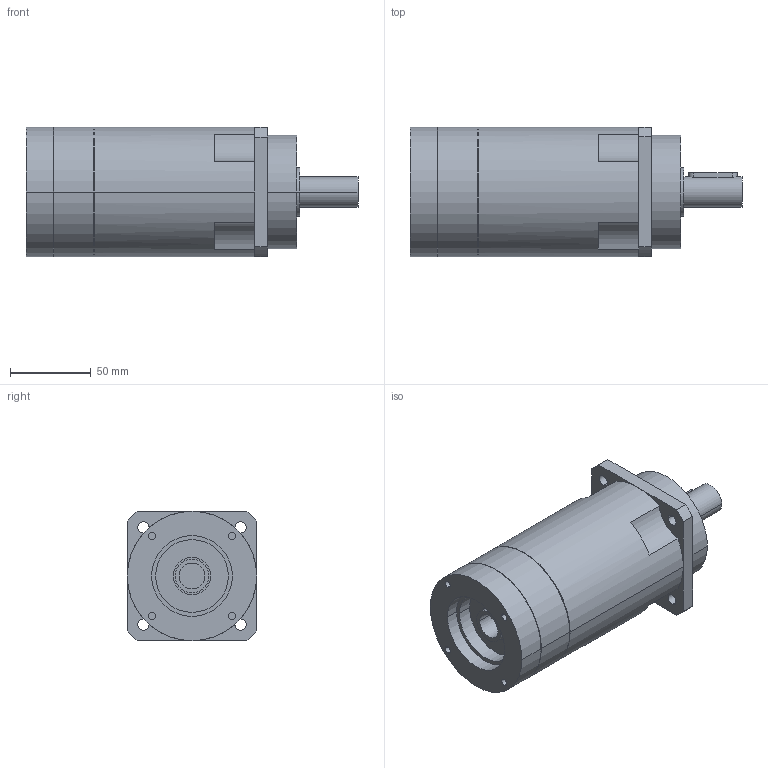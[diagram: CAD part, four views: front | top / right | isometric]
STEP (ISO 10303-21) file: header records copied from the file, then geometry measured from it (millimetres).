
FILE_DESCRIPTION(('CoCreate Modeling STEP Export'),'2;1');
FILE_NAME('GPR100_ig-48-64-80-100-120-144-180-216_19_B5_16_P15.stp','2014-08-26T11:56:14',(''),(''),'CoCreate Modeling STEP processor for AP214 (Solid Model)','CoCreate Modeling 16.00C 25-Feb-2009 (C) Parametric Technology GmbH','');
FILE_SCHEMA(('AUTOMOTIVE_DESIGN { 1 0 10303 214 1 1 1 1 }'));
Length unit declared in the file: millimetre
Products named in the file (2): GPR100_ig-48-64-80-100-120-144-180-216_19_B5_16_P15
Assembly tree (1 placements, depth 2):
  GPR100_ig-48-64-80-100-120-144-180-216_19_B5_16_P15
    GPR100_ig-48-64-80-100-120-144-180-216_19_B5_16_P15
Bounding box: 205.4 x 80 x 80 mm (x, y, z)
Volume: 796060.7 mm3; surface area: 64808.6 mm2
Topology: 1 solids, 1 shells, 99 faces, 258 edges, 178 vertices
Faces by surface type: cylinder 58, plane 35, cone 6
Entity records: 2684 total; most frequent: ORIENTED_EDGE 512, CARTESIAN_POINT 480, DIRECTION 386, EDGE_CURVE 256, VERTEX_POINT 178, AXIS2_PLACEMENT_3D 148, EDGE_LOOP 126, FACE_OUTER_BOUND 99
